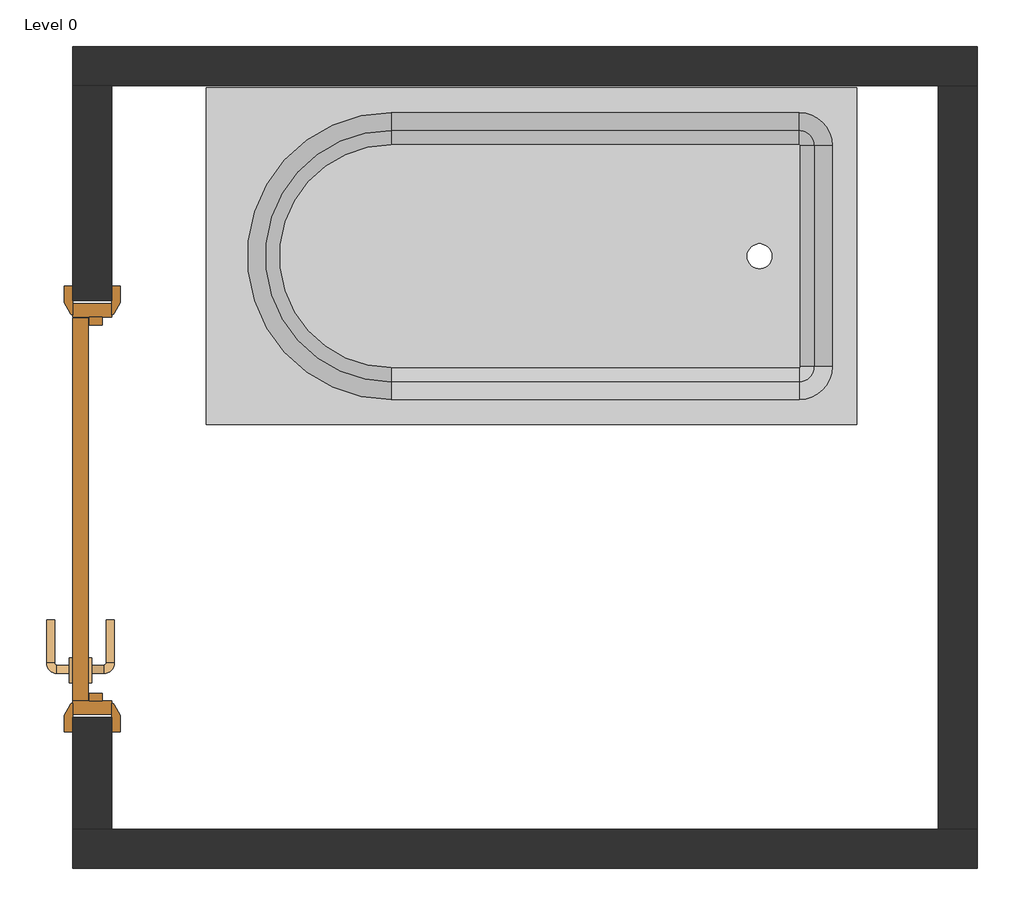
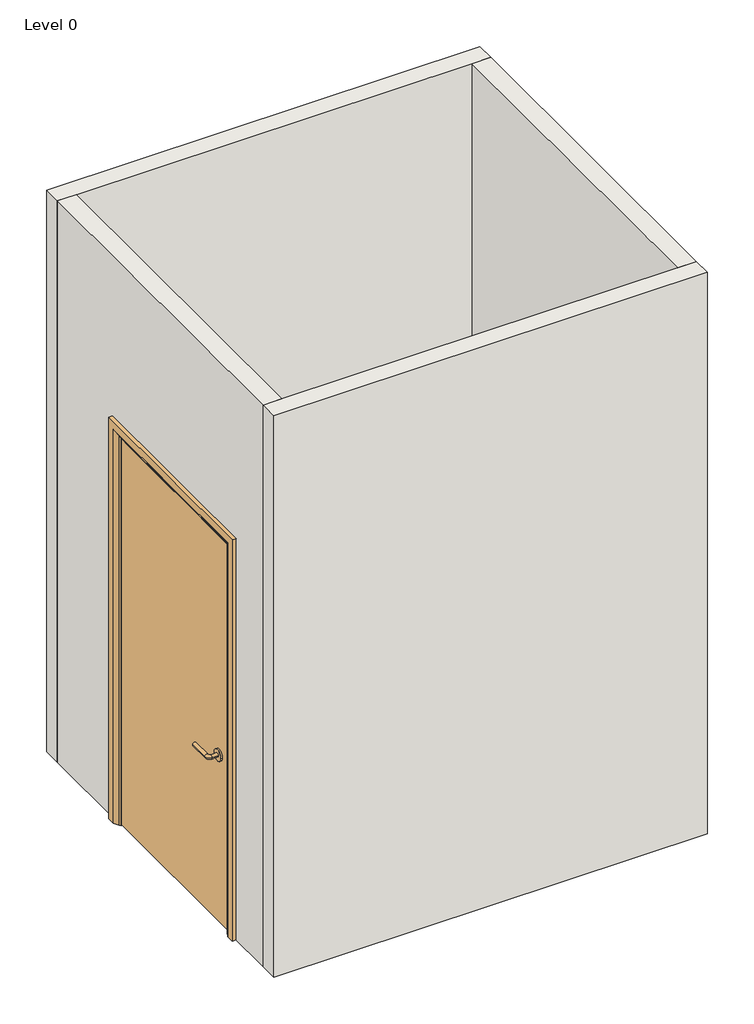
# One storey: 4 walls, 1 door, 1 flow terminal.
"""IFC4 building model written with IfcOpenShell, lengths in millimetres."""

from ifc_helpers import new_model, si_unit, frame, origin, origin_with_axes, place, context, project, spatial, polyline, outline, extrude, faceted_brep, transform, mapped, element, save
from components import doors_intsgl_1010_x_2110mm_9b3ab836, plumbing_fixtures_bath_1_1575x815x340mm_1df68492

model = new_model("IFC4")

# Units and contexts
model_context = context("Model", 3, world=origin())
ifc_project = project(units=[si_unit("LENGTHUNIT", "METRE", prefix="MILLI")], contexts=[model_context])

# Site, building, storey
site = spatial("IfcSite", under=ifc_project)
building = spatial("IfcBuilding", under=site)
storey = spatial("IfcBuildingStorey", under=building, Name="Level 0", Elevation=0.0)

# Door
placement = place(None, origin())
doors_intsgl_1010_x_2110mm_shape = doors_intsgl_1010_x_2110mm_9b3ab836(model_context)
element("IfcDoor", 1, ObjectType="Doors_IntSgl : 1010 x 2110mm", at=placement, inside=storey, context=model_context, shape_type="MappedRepresentation", body=[
    mapped(doors_intsgl_1010_x_2110mm_shape, transform((-9462.205031, 3488.4031618, 0.0), x_axis=(0.0, 1.0, 0.0), y_axis=(-1.0, 0.0, 0.0), z_axis=(0.0, 0.0, 1.0))),
])

# Flow terminal
plumbing_fixtures_bath_1_1575x815x340mm_shape = plumbing_fixtures_bath_1_1575x815x340mm_1df68492(model_context)
element("IfcFlowTerminal", 2, ObjectType="Plumbing_Fixtures_Bath_1 : 1575x815x340mm", at=placement, inside=storey, context=model_context, shape_type="MappedRepresentation", body=[
    mapped(plumbing_fixtures_bath_1_1575x815x340mm_shape, transform((-8398.8608161, 4100.9031618, 0.0), x_axis=(1.0, 0.0, 0.0), y_axis=(0.0, 1.0, 0.0), z_axis=(0.0, 0.0, 1.0))),
])

# Walls
element("IfcWall", 3, ObjectType="Wall-Partn_12P-70MStd-12P", at=placement, inside=storey, context=model_context, shape_type="Brep", body=[
    faceted_brep([(-9509.705031, 4513.4031618, 0.0), (-9414.705031, 4513.4031618, 0.0), (-7414.705031, 4513.4031618, 0.0), (-7319.705031, 4513.4031618, 0.0), (-7319.705031, 4513.4031618, 3000.0), (-7414.705031, 4513.4031618, 3000.0), (-9414.705031, 4513.4031618, 3000.0), (-9509.705031, 4513.4031618, 3000.0), (-9509.705031, 4608.4031618, 0.0), (-9509.705031, 4608.4031618, 3000.0), (-7319.705031, 4608.4031618, 3000.0), (-7319.705031, 4608.4031618, 0.0)], [[[0, 1, 2, 3, 4, 5, 6, 7]], [[8, 9, 10, 11]], [[3, 2, 1, 0, 8, 11]], [[7, 6, 5, 4, 10, 9]], [[0, 7, 9, 8]], [[4, 3, 11, 10]]]),
])
element("IfcWall", 4, ObjectType="Wall-Partn_12P-70MStd-12P", at=placement, inside=storey, context=model_context, shape_type="Brep", body=[
    faceted_brep([(-7319.705031, 2713.4031618, 0.0), (-7414.705031, 2713.4031618, 0.0), (-9414.705031, 2713.4031618, 0.0), (-9509.705031, 2713.4031618, 0.0), (-9509.705031, 2713.4031618, 3000.0), (-9414.705031, 2713.4031618, 3000.0), (-7414.705031, 2713.4031618, 3000.0), (-7319.705031, 2713.4031618, 3000.0), (-7319.705031, 2618.4031618, 0.0), (-7319.705031, 2618.4031618, 3000.0), (-9509.705031, 2618.4031618, 3000.0), (-9509.705031, 2618.4031618, 0.0)], [[[0, 1, 2, 3, 4, 5, 6, 7]], [[8, 9, 10, 11]], [[3, 2, 1, 0, 8, 11]], [[7, 6, 5, 4, 10, 9]], [[4, 3, 11, 10]], [[0, 7, 9, 8]]]),
])
element("IfcWall", 5, ObjectType="Wall-Partn_12P-70MStd-12P", at=placement, inside=storey, context=model_context, shape_type="SweptSolid", body=[
    extrude(outline(polyline([(2713.4031618, 3000.0), (4513.4031618, 3000.0), (4513.4031618, 0.0), (3993.4031618, 0.0), (3993.4031618, 2110.0), (2983.4031618, 2110.0), (2983.4031618, 0.0), (2713.4031618, 0.0), (2713.4031618, 3000.0)])), frame((-9509.705031, 0.0, 0.0), z_axis=(1.0, 0.0, 0.0), x_axis=(0.0, 1.0, 0.0)), (0.0, 0.0, 1.0), 95.0),
])
element("IfcWall", 6, ObjectType="Wall-Partn_12P-70MStd-12P", at=placement, inside=storey, context=model_context, shape_type="SweptSolid", body=[
    extrude(outline(polyline([(-7414.705031, 2713.4031618), (-7414.705031, 4513.4031618), (-7319.705031, 4513.4031618), (-7319.705031, 2713.4031618), (-7414.705031, 2713.4031618)])), origin_with_axes(), (0.0, 0.0, 1.0), 3000.0),
])

save(model, "model.ifc")
